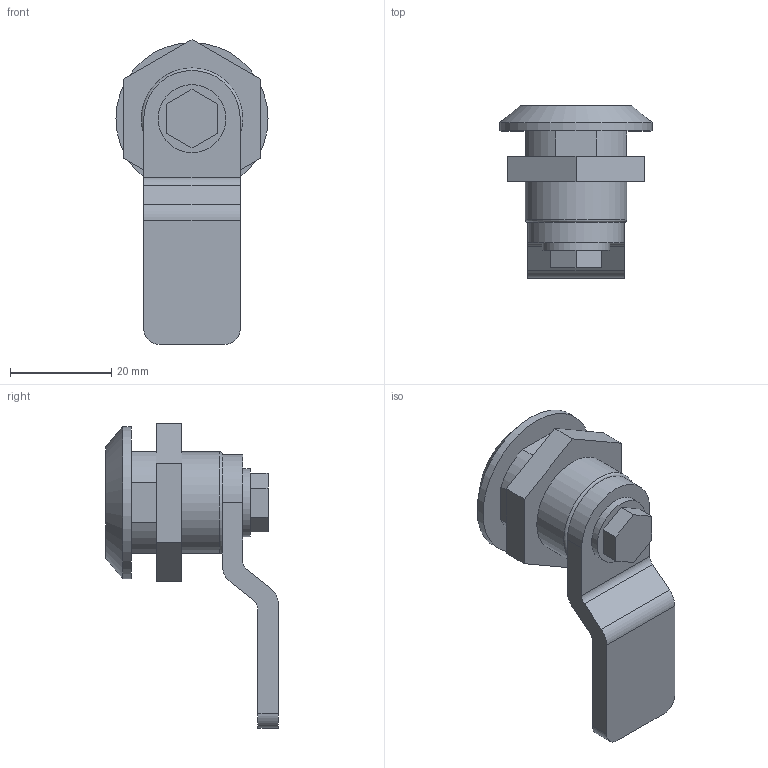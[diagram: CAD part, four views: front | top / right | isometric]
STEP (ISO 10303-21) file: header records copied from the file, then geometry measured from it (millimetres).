
FILE_DESCRIPTION (( 'STEP AP214' ), '1' );
FILE_NAME ('F30225.step', '2024-12-03T16:16:24', ( '' ), ( '' ), 'SwSTEP 2.0', 'SolidWorks 2023', '' );
FILE_SCHEMA (( 'AUTOMOTIVE_DESIGN' ));
Length unit declared in the file: millimetre
Products named in the file (1): F30225
Bounding box: 30 x 34 x 60.09 mm (x, y, z)
Volume: 14474.8 mm3; surface area: 6050 mm2
Topology: 1 solids, 1 shells, 69 faces, 176 edges, 116 vertices
Faces by surface type: plane 49, cylinder 18, cone 1, torus 1
Full cylindrical faces by diameter (mm): 13.4 x1, 20 x1, 30 x1
Entity records: 2065 total; most frequent: CARTESIAN_POINT 355, DIRECTION 348, ORIENTED_EDGE 340, EDGE_CURVE 170, VECTOR 132, LINE 132, VERTEX_POINT 115, AXIS2_PLACEMENT_3D 108
